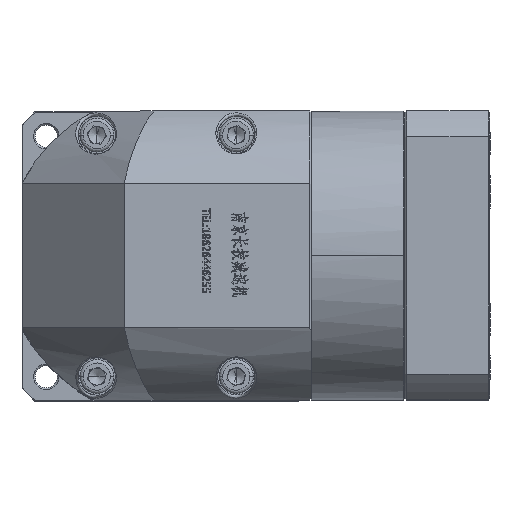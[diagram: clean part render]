
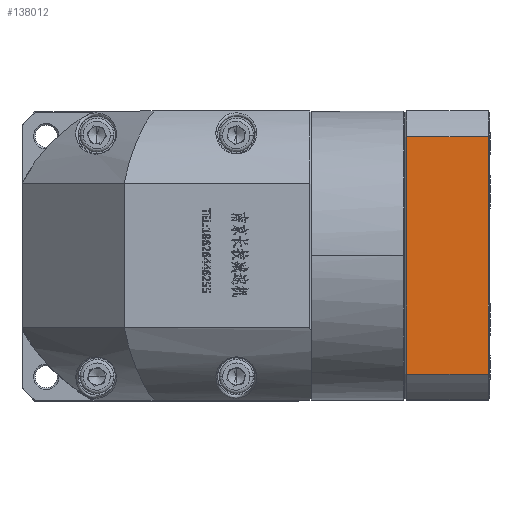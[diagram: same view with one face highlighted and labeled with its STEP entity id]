
A CAD part, top view. The second image highlights one B-rep face of the part: STEP entity #138012.
In plain terms, the highlighted planar face has unit normal (0, 0, 1).
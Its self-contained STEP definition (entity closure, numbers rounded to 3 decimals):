
#872 = CARTESIAN_POINT ( 'NONE',  ( 116.355, 107.695, 34.216 ) ) ;
#5610 = PLANE ( 'NONE',  #49516 ) ;
#8367 = VERTEX_POINT ( 'NONE', #67545 ) ;
#13202 = VECTOR ( 'NONE', #118920, 1000. ) ;
#14470 = DIRECTION ( 'NONE',  ( -1., 0., 0. ) ) ;
#18213 = ORIENTED_EDGE ( 'NONE', *, *, #167612, .T. ) ;
#19766 = ORIENTED_EDGE ( 'NONE', *, *, #85990, .F. ) ;
#33778 = LINE ( 'NONE', #103935, #133364 ) ;
#36392 = DIRECTION ( 'NONE',  ( 1., 0., 0. ) ) ;
#37340 = VECTOR ( 'NONE', #161761, 1000. ) ;
#46983 = FACE_OUTER_BOUND ( 'NONE', #50933, .T. ) ;
#49516 = AXIS2_PLACEMENT_3D ( 'NONE', #154668, #73741, #168111 ) ;
#50933 = EDGE_LOOP ( 'NONE', ( #19766, #120479, #18213, #160104 ) ) ;
#67545 = CARTESIAN_POINT ( 'NONE',  ( 91.855, 177.516, 34.216 ) ) ;
#69138 = LINE ( 'NONE', #148322, #37340 ) ;
#71922 = VERTEX_POINT ( 'NONE', #101596 ) ;
#73741 = DIRECTION ( 'NONE',  ( 0., 0., -1. ) ) ;
#76571 = CARTESIAN_POINT ( 'NONE',  ( 91.855, 107.695, 34.216 ) ) ;
#85990 = EDGE_CURVE ( 'NONE', #101305, #71922, #69138, .T. ) ;
#91342 = EDGE_CURVE ( 'NONE', #71922, #142238, #163125, .T. ) ;
#93976 = CARTESIAN_POINT ( 'NONE',  ( 91.855, 107.695, 34.216 ) ) ;
#95407 = EDGE_CURVE ( 'NONE', #8367, #101305, #33778, .T. ) ;
#101305 = VERTEX_POINT ( 'NONE', #153279 ) ;
#101596 = CARTESIAN_POINT ( 'NONE',  ( 115.855, 107.695, 34.216 ) ) ;
#103935 = CARTESIAN_POINT ( 'NONE',  ( 116.355, 177.516, 34.216 ) ) ;
#118920 = DIRECTION ( 'NONE',  ( 0., -1., 0. ) ) ;
#120479 = ORIENTED_EDGE ( 'NONE', *, *, #95407, .F. ) ;
#127368 = VECTOR ( 'NONE', #14470, 1000. ) ;
#133364 = VECTOR ( 'NONE', #36392, 1000. ) ;
#138012 = ADVANCED_FACE ( 'NONE', ( #46983 ), #5610, .F. ) ;
#142238 = VERTEX_POINT ( 'NONE', #76571 ) ;
#148322 = CARTESIAN_POINT ( 'NONE',  ( 115.855, 107.695, 34.216 ) ) ;
#153279 = CARTESIAN_POINT ( 'NONE',  ( 115.855, 177.516, 34.216 ) ) ;
#154668 = CARTESIAN_POINT ( 'NONE',  ( 116.355, 107.695, 34.216 ) ) ;
#157125 = LINE ( 'NONE', #93976, #13202 ) ;
#160104 = ORIENTED_EDGE ( 'NONE', *, *, #91342, .F. ) ;
#161761 = DIRECTION ( 'NONE',  ( 0., -1., 0. ) ) ;
#163125 = LINE ( 'NONE', #872, #127368 ) ;
#167612 = EDGE_CURVE ( 'NONE', #8367, #142238, #157125, .T. ) ;
#168111 = DIRECTION ( 'NONE',  ( -1., 0., 0. ) ) ;
